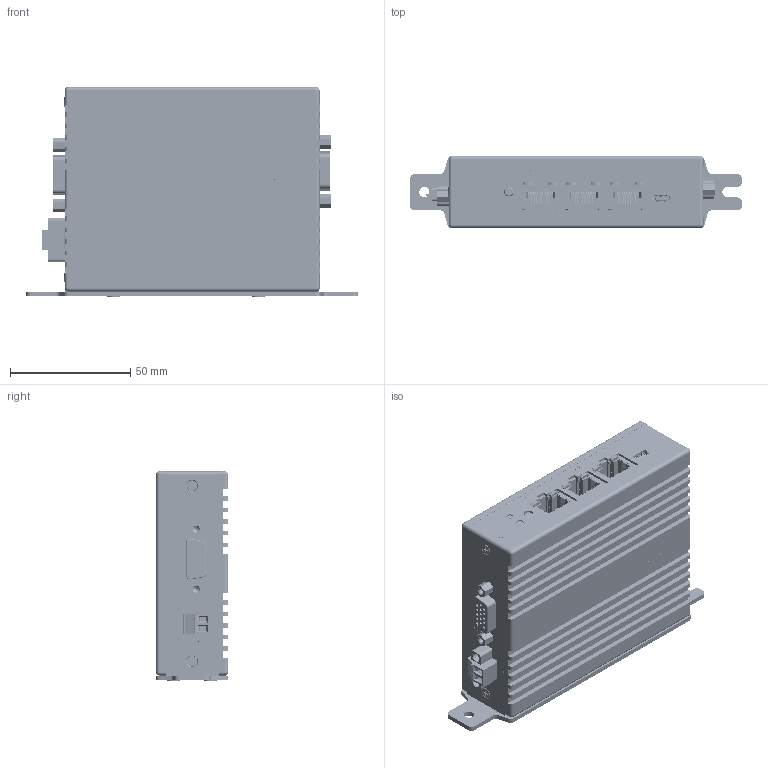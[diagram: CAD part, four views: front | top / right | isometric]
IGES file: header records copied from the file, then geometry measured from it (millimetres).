
Start section: SolidWorks IGES file using analytic representation for surfaces
Global section: file name: H:\ANaivelt\soft MC703\New folder\softMC 703_Book mount_v01.IGS; native system: SolidWorks 2010; preprocessor: SolidWorks 2010; author: Alexander.Naivelt; date: 180215.082022; units: millimetre
Bounding box: 138 x 30.06 x 87.2 mm (x, y, z)
Surface area: 97427.4 mm2 (no closed solid volume)
Topology: 0 solids, 0 shells, 6007 faces, 53645 edges, 53454 vertices
Faces by surface type: bspline 4824, revolution 1183
